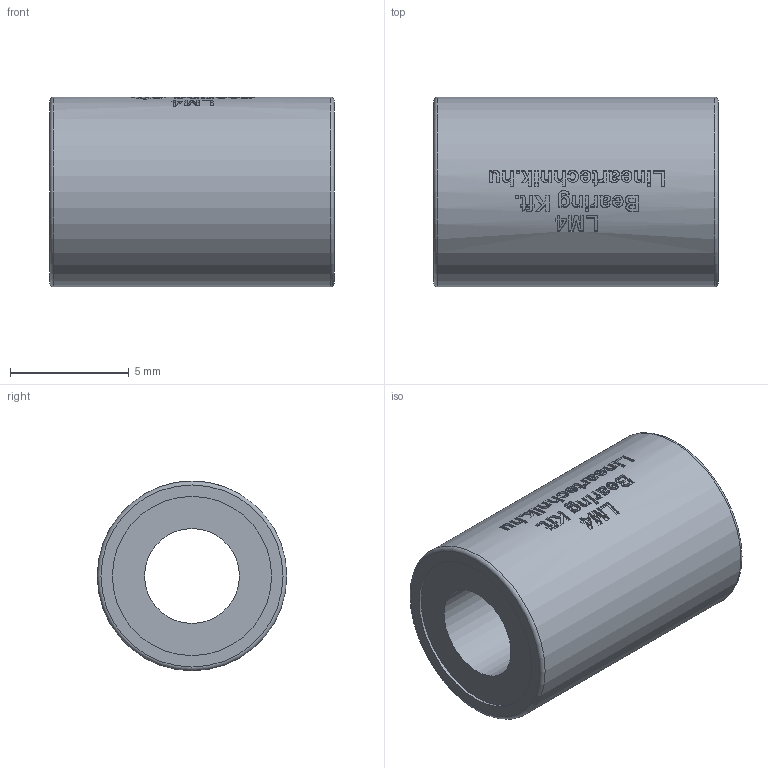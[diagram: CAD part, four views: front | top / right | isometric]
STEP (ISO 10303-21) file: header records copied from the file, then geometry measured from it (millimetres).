
FILE_DESCRIPTION(/* description */ ('Huosing for flange nuts'),/* implementation_level */ '2;1');
FILE_NAME(/* name */ 'LM4',/* time_stamp */ '2019-05-07T14:08:23+02:00',/* author */ ('VĂ©gh MĂˇtĂ©'),/* organization */ ('Bearing Kft'),/* preprocessor_version */ 'ST-DEVELOPER v16.7',/* originating_system */ 'DEX',/* authorisation */ $);
FILE_SCHEMA (('AUTOMOTIVE_DESIGN {1 0 10303 214 3 1 1}'));
Length unit declared in the file: millimetre
Products named in the file (1): LM4
Bounding box: 12 x 8 x 8 mm (x, y, z)
Volume: 446.2 mm3; surface area: 533.8 mm2
Topology: 1 solids, 1 shells, 291 faces, 739 edges, 493 vertices
Faces by surface type: plane 157, bspline 86, cylinder 46, torus 2
Full cylindrical faces by diameter (mm): 4 x1, 6.72 x2, 8 x1
Entity records: 12347 total; most frequent: CARTESIAN_POINT 5797, ORIENTED_EDGE 1452, DIRECTION 1101, EDGE_CURVE 726, VERTEX_POINT 488, LINE 405, VECTOR 405, AXIS2_PLACEMENT_3D 348
